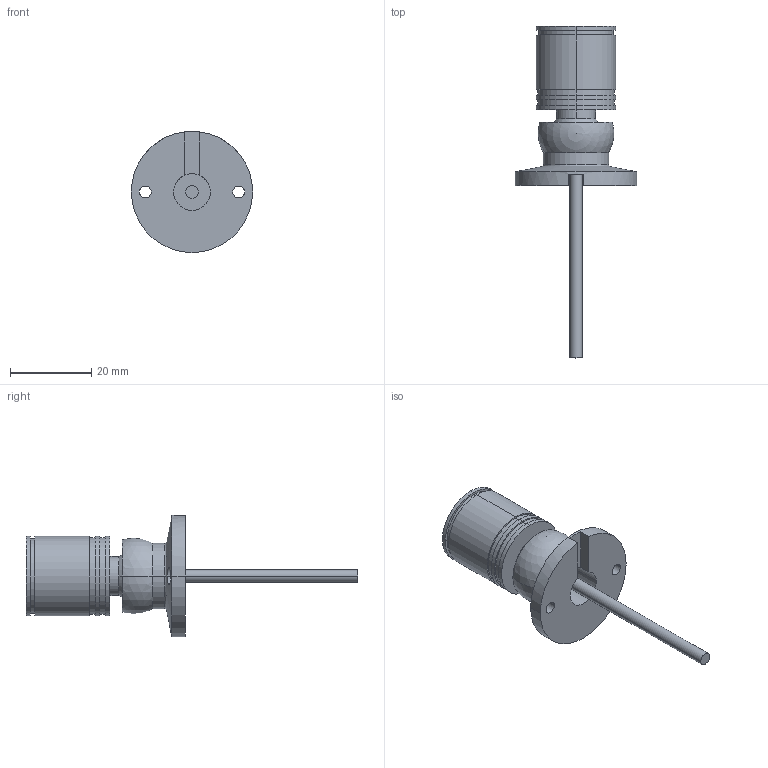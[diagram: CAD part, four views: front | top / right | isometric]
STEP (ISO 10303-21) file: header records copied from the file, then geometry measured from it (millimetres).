
FILE_DESCRIPTION (( 'STEP AP203' ), '1' );
FILE_NAME ('錨璃1.STEP', '2026-05-08T15:01:43', ( '' ), ( '' ), 'SwSTEP 2.0', 'SolidWorks 2024', '' );
FILE_SCHEMA (( 'CONFIG_CONTROL_DESIGN' ));
Length unit declared in the file: millimetre
Products named in the file (1): 零件1
Bounding box: 29.8 x 81.6 x 29.8 mm (x, y, z)
Volume: 10615.4 mm3; surface area: 5623.4 mm2
Topology: 1 solids, 1 shells, 69 faces, 163 edges, 103 vertices
Faces by surface type: cylinder 36, plane 17, cone 8, torus 4, sphere 4
Entity records: 2175 total; most frequent: CARTESIAN_POINT 442, DIRECTION 394, ORIENTED_EDGE 316, AXIS2_PLACEMENT_3D 170, EDGE_CURVE 158, CIRCLE 100, VERTEX_POINT 100, EDGE_LOOP 82
